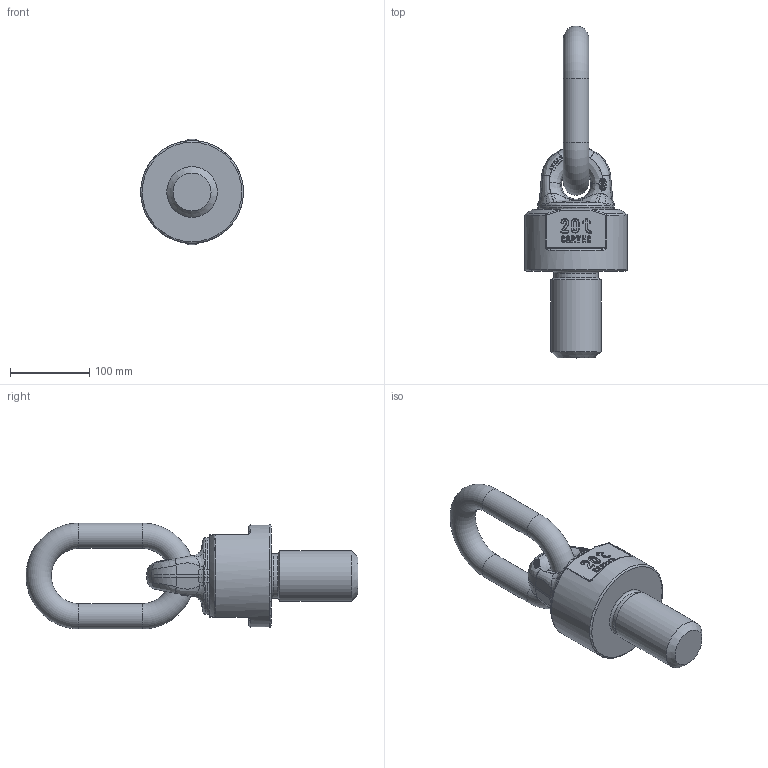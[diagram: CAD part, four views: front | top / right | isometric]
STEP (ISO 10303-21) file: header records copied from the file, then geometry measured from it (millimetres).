
FILE_DESCRIPTION(/* description */ (''),/* implementation_level */ '2;1');
FILE_NAME(/* name */ 'C80020064110.stp',/* time_stamp */ '2016-03-21T17:14:32+01:00',/* author */ (''),/* organization */ (''),/* preprocessor_version */ 'ST-DEVELOPER v16',/* originating_system */ 'SIEMENS PLM Software NX 10.0',/* authorisation */ '');
FILE_SCHEMA (('AP203_CONFIGURATION_CONTROLLED_3D_DESIGN_OF_MECHANICAL_PARTS_AND_ASSEMBLIES_MIM_LF { 1 0 10303 403 2 1 2}'));
Products named in the file (1): ugii17740FD3dpxl
Bounding box: 129.78 x 419.97 x 134 mm (x, y, z)
Volume: 1688465.7 mm3; surface area: 156943.2 mm2
Topology: 2 solids, 3 shells, 773 faces, 2207 edges, 1691 vertices
Faces by surface type: bspline 337, cylinder 205, plane 176, torus 39, sphere 8, cone 4, extrusion 2, revolution 2
Full cylindrical faces by diameter (mm): 32 x2, 37 x1, 56.3 x1, 64 x1, 130 x1
Entity records: 42140 total; most frequent: CARTESIAN_POINT 26631, ORIENTED_EDGE 3776, DIRECTION 2248, EDGE_CURVE 1888, B_SPLINE_CURVE_WITH_KNOTS 1186, VERTEX_POINT 1148, AXIS2_PLACEMENT_3D 881, EDGE_LOOP 804
